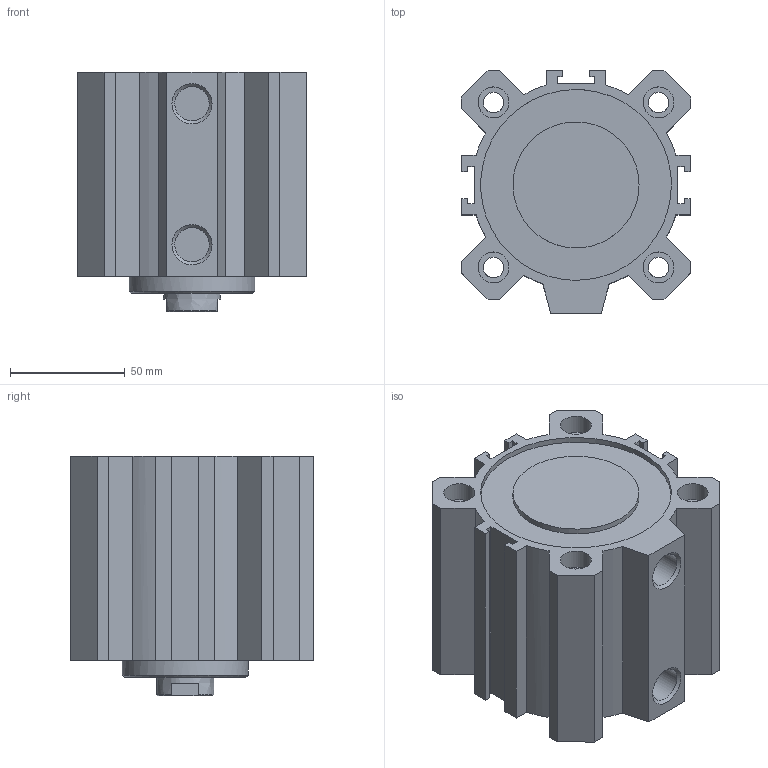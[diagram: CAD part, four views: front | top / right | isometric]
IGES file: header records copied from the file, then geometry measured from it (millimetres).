
Global section: file name: 1511_80_0040; native system: Autodesk Inventor 2014; preprocessor: unknown; author: A. Manieri; date: 20160824.142159; units: millimetre
Bounding box: 100 x 106 x 104.5 mm (x, y, z)
Volume: 548646.3 mm3; surface area: 124728.7 mm2
Topology: 2 solids, 2 shells, 119 faces, 307 edges, 210 vertices
Faces by surface type: bspline 119
